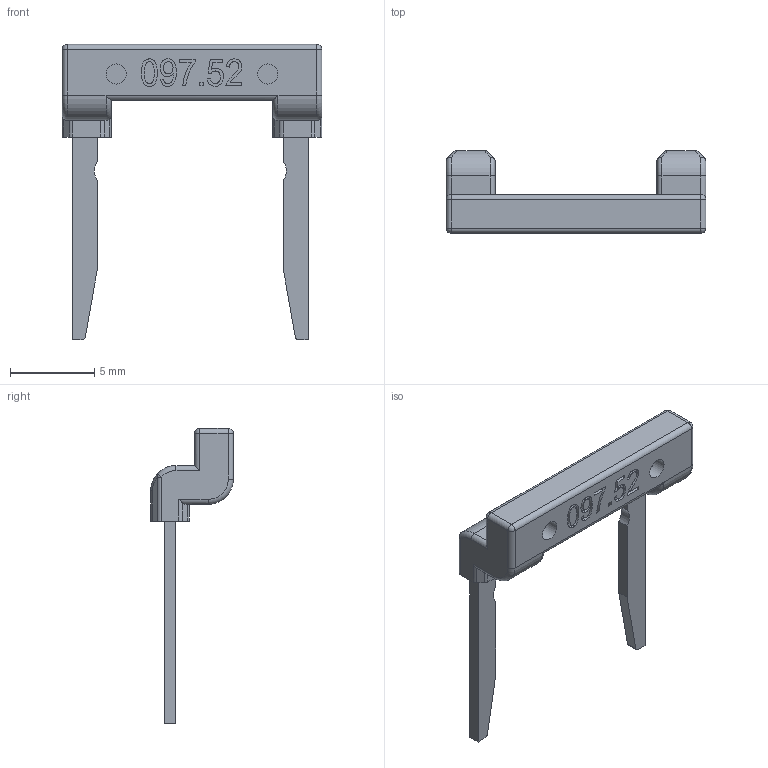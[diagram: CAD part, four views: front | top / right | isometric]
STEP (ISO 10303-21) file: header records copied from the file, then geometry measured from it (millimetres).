
FILE_DESCRIPTION(/* description */ (''),/* implementation_level */ '2;1');
FILE_NAME(/* name */ 'C:\Desktop\FIERA\Assieme Pettine 2 Poli Passo12.5mm Rev. a.stp',/* time_stamp */ '2015-03-05T14:59:12+01:00',/* author */ ('marco'),/* organization */ (''),/* preprocessor_version */ 'ST-DEVELOPER v15.6',/* originating_system */ 'Autodesk Inventor 2015',/* authorisation */ '');
FILE_SCHEMA (('AUTOMOTIVE_DESIGN { 1 0 10303 214 3 1 1 }'));
Length unit declared in the file: centimetre
Products named in the file (1): Assieme Pettine 2 Poli Passo12.5mm Rev. a
Bounding box: 15.4 x 4.9 x 17.5 mm (x, y, z)
Volume: 189.4 mm3; surface area: 380.1 mm2
Topology: 1 solids, 1 shells, 209 faces, 525 edges, 336 vertices
Faces by surface type: plane 91, cylinder 54, bspline 48, sphere 8, torus 8
Full cylindrical faces by diameter (mm): 1.2 x4, 2.23 x1
Entity records: 6749 total; most frequent: CARTESIAN_POINT 1730, ORIENTED_EDGE 1040, DIRECTION 880, EDGE_CURVE 520, VERTEX_POINT 336, LINE 300, VECTOR 300, AXIS2_PLACEMENT_3D 290
